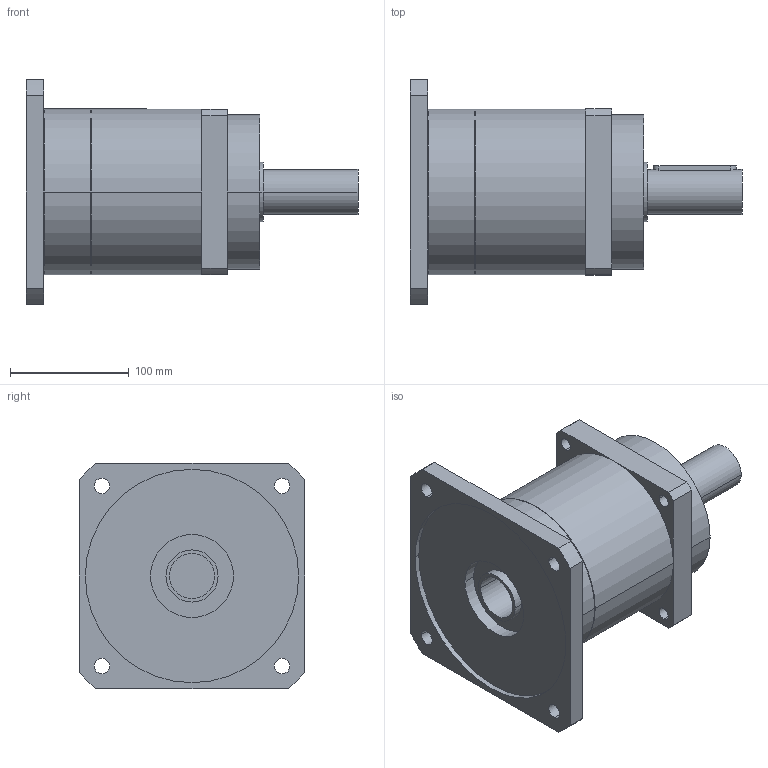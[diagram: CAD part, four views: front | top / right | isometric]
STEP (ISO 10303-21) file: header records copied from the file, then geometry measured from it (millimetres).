
FILE_DESCRIPTION(('CoCreate Modeling STEP Export'),'2;1');
FILE_NAME('GPR150_ig-3-4-5-7_38_B5_38_P06.stp','2014-08-19T16:43:29',(''),(''),'CoCreate Modeling STEP processor for AP214 (Solid Model)','CoCreate Modeling 16.00C 25-Feb-2009 (C) Parametric Technology GmbH','');
FILE_SCHEMA(('AUTOMOTIVE_DESIGN { 1 0 10303 214 1 1 1 1 }'));
Length unit declared in the file: millimetre
Products named in the file (2): GPR150_ig-3-4-5-7_38_B5_38_P06
Assembly tree (1 placements, depth 2):
  GPR150_ig-3-4-5-7_38_B5_38_P06
    GPR150_ig-3-4-5-7_38_B5_38_P06
Bounding box: 280 x 190 x 190 mm (x, y, z)
Volume: 3222870.1 mm3; surface area: 202374.3 mm2
Topology: 1 solids, 1 shells, 78 faces, 214 edges, 146 vertices
Faces by surface type: cylinder 46, plane 26, cone 6
Entity records: 2260 total; most frequent: ORIENTED_EDGE 424, CARTESIAN_POINT 421, DIRECTION 320, EDGE_CURVE 212, VERTEX_POINT 146, AXIS2_PLACEMENT_3D 117, EDGE_LOOP 104, VECTOR 86
